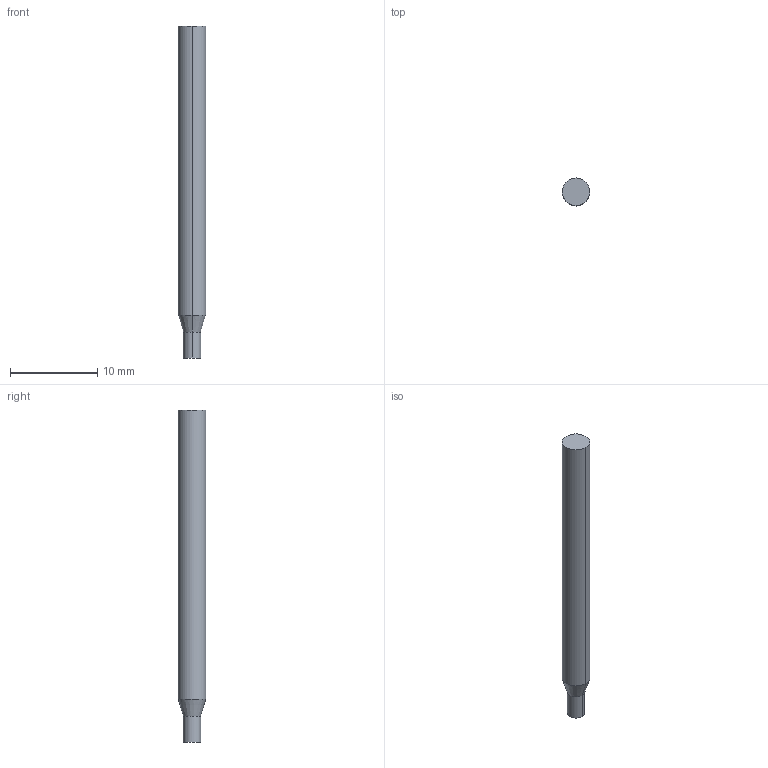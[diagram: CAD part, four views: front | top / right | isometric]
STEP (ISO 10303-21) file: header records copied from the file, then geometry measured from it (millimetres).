
FILE_DESCRIPTION((' '),'2;1');
FILE_NAME( '3MVS0781AH.stp', '2026-01-21T19:08:30', (' '), ('--- Datakit www.datakit.com---'), ' Datakit CrossCadWare V2025.4 Sep 19 2025', 'Mastercam 2027', ' ');
FILE_SCHEMA(('AUTOMOTIVE_DESIGN { 1 0 10303 214 1 1 1 1 }'));
Length unit declared in the file: inch
Products named in the file (1): 3MVS0781AH
Bounding box: 3.17 x 3.17 x 38.1 mm (x, y, z)
Volume: 282.2 mm3; surface area: 377 mm2
Topology: 1 solids, 1 shells, 8 faces, 14 edges, 8 vertices
Faces by surface type: cylinder 4, plane 2, cone 2
Entity records: 264 total; most frequent: DIRECTION 48, CARTESIAN_POINT 35, ORIENTED_EDGE 28, AXIS2_PLACEMENT_3D 21, EDGE_CURVE 14, VERTEX_POINT 8, CIRCLE 8, EDGE_LOOP 8
